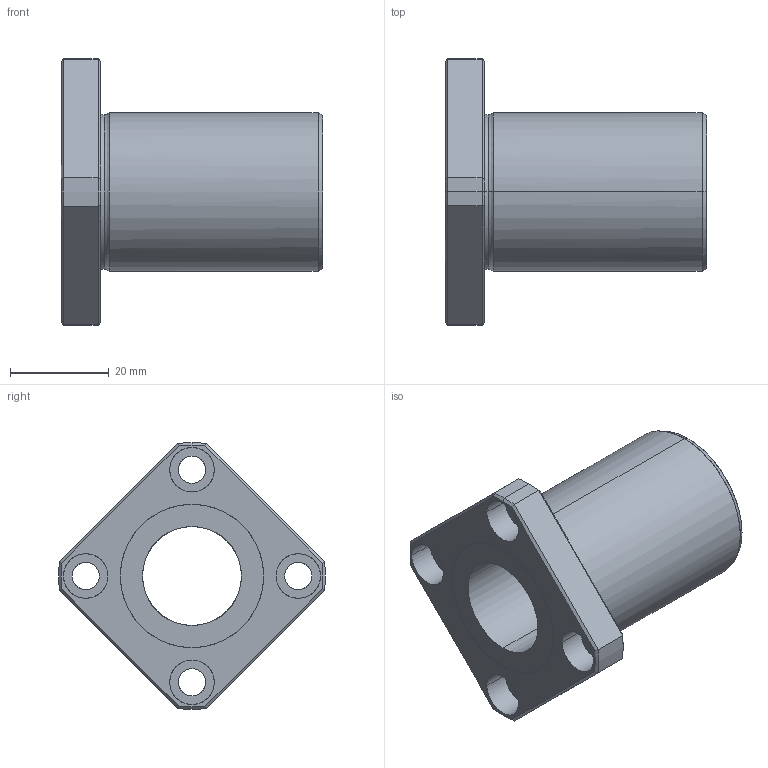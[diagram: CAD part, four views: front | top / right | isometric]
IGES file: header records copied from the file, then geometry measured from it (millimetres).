
Global section: file name: No Iges File Name specified; native system: AutoDesk Inventor R10; preprocessor: AutoDesk Inventor Iges Exporter R10; author: No Author specified; organization: No Organization specified; date: 20101216.154808; units: millimetre
Bounding box: 53 x 54 x 54 mm (x, y, z)
Surface area: 12463.7 mm2 (no closed solid volume)
Topology: 0 solids, 0 shells, 69 faces, 416 edges, 416 vertices
Faces by surface type: bspline 69
